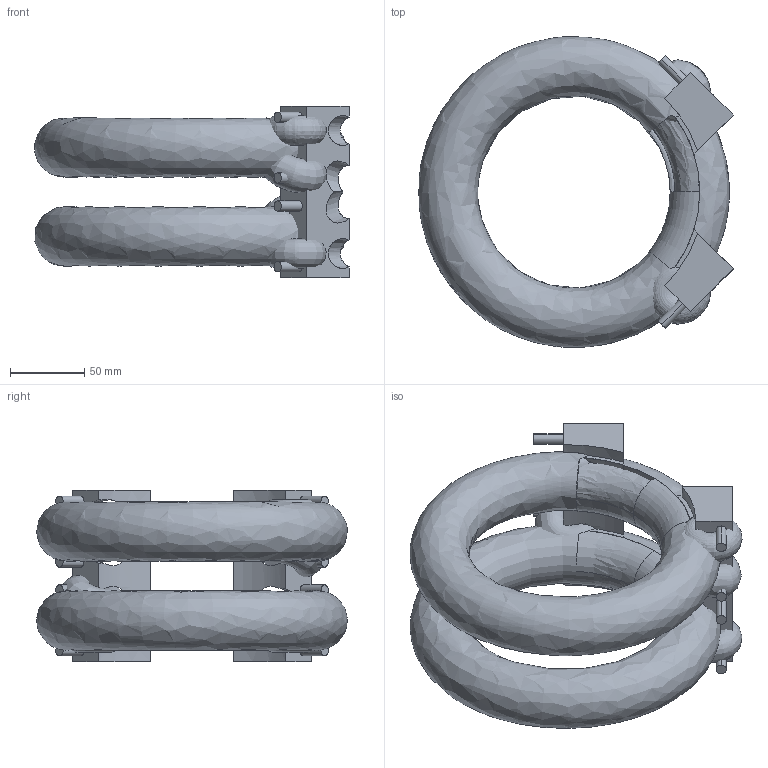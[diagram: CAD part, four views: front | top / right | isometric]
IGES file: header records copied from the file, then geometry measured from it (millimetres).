
Start section: IMSI TurboCAD v14.0
Global section: author: NULL; organization: NULL; date: 20231227.191259; units: millimetre
Bounding box: 212.2 x 209.88 x 116 mm (x, y, z)
Surface area: 461425.6 mm2 (no closed solid volume)
Topology: 0 solids, 0 shells, 190 faces, 1208 edges, 1188 vertices
Faces by surface type: revolution 150, extrusion 40
